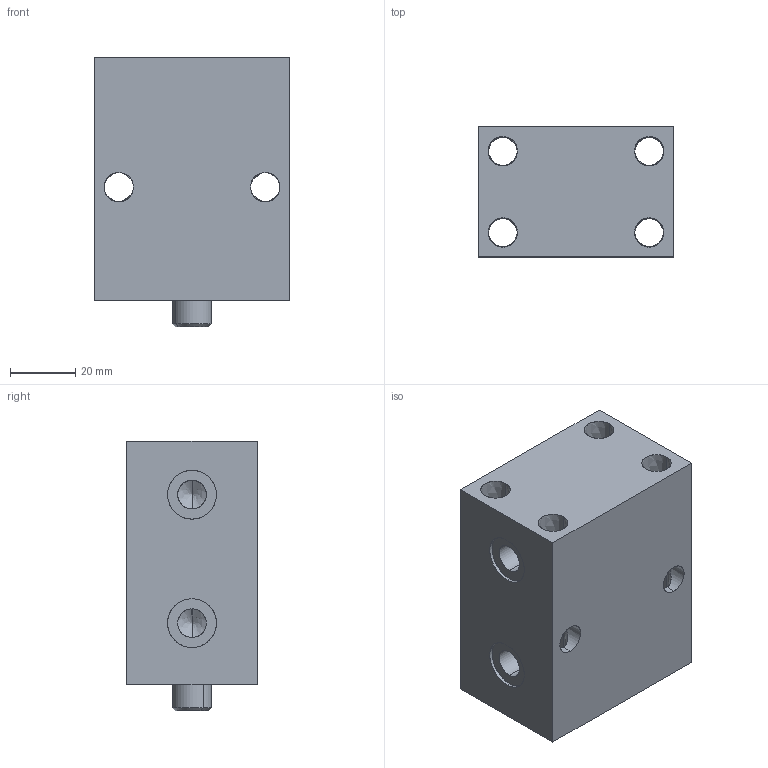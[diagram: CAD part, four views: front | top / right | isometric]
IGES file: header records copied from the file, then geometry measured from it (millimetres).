
Start section: SolidWorks IGES file using analytic representation for surfaces
Global section: file name: D:\karuppas\Clasp\3D model\Block cylinder B01C-Female thread\B01C-025F\Block cylinder B01C-025F.IGS; native system: SolidWorks 2017; preprocessor: SolidWorks 2017; author: pc; date: 220709.235506; units: millimetre
Bounding box: 60 x 40 x 83 mm (x, y, z)
Surface area: 33317.9 mm2 (no closed solid volume)
Topology: 0 solids, 0 shells, 342 faces, 5277 edges, 5271 vertices
Faces by surface type: bspline 290, revolution 52
